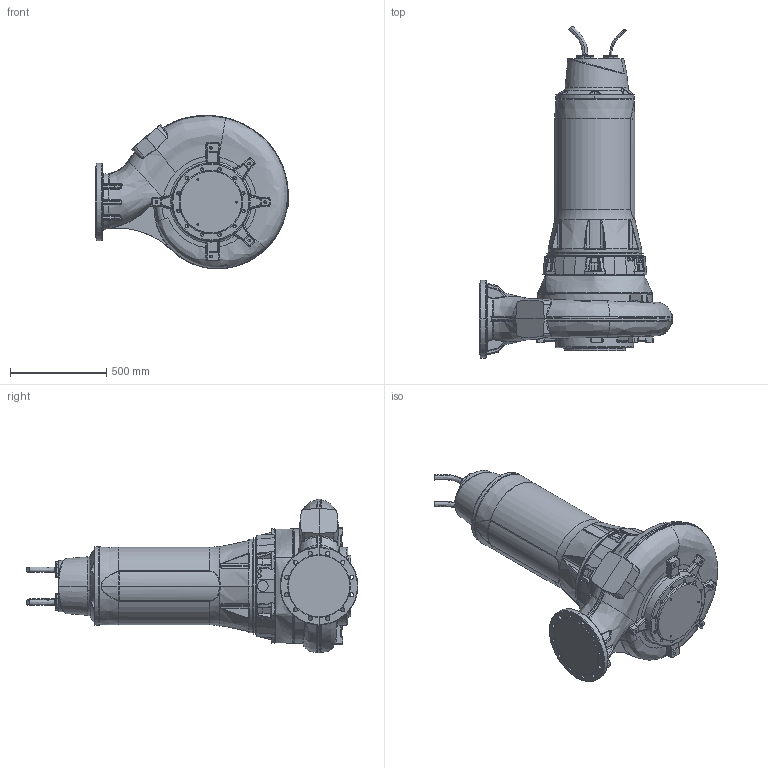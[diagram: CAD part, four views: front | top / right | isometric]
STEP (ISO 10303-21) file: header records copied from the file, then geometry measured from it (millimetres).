
FILE_DESCRIPTION (( 'STEP AP214' ), '1' );
FILE_NAME ('PE5_XFP250M-CH2_MOTOR OK_A_NG2.STEP', '2017-03-08T08:54:03', ( '' ), ( '' ), 'SwSTEP 2.0', 'SolidWorks 2017', '' );
FILE_SCHEMA (( 'AUTOMOTIVE_DESIGN' ));
Length unit declared in the file: millimetre
Products named in the file (1): PE5_XFP250M-CH2_MOTOR OK_A_NG2
Bounding box: 1004 x 1726.58 x 798.74 mm (x, y, z)
Volume: 297425857.9 mm3; surface area: 3748243.1 mm2
Topology: 1 solids, 30 shells, 1758 faces, 4241 edges, 2481 vertices
Faces by surface type: bspline 638, cylinder 448, plane 288, cone 194, torus 142, sphere 48
Entity records: 116342 total; most frequent: CARTESIAN_POINT 78696, ORIENTED_EDGE 8240, DIRECTION 6051, EDGE_CURVE 4120, AXIS2_PLACEMENT_3D 2531, VERTEX_POINT 2479, EDGE_LOOP 1849, FACE_OUTER_BOUND 1758
